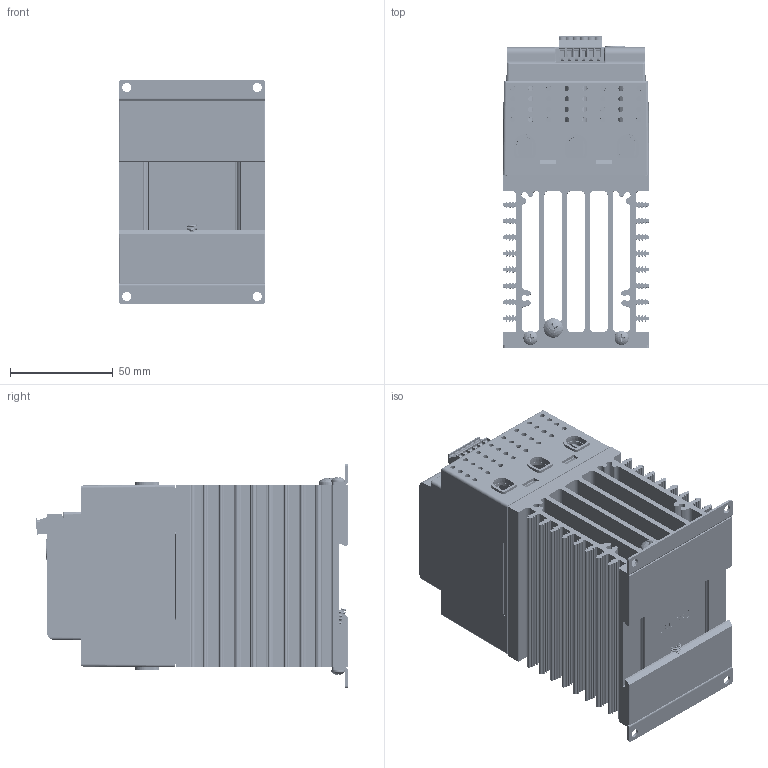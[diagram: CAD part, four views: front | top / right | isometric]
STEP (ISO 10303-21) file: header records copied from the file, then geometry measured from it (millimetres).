
FILE_DESCRIPTION(/* description */ (''),/* implementation_level */ '2;1');
FILE_NAME(/* name */ '3-phase Analog 32A w-tabs.stp',/* time_stamp */ '2024-11-15T09:08:56-06:00',/* author */ ('ErikG'),/* organization */ (''),/* preprocessor_version */ 'ST-DEVELOPER v20',/* originating_system */ 'Autodesk Inventor 2025',/* authorisation */ '');
FILE_SCHEMA (('AUTOMOTIVE_DESIGN { 1 0 10303 214 3 1 1 }'));
Products named in the file (24): 3001632e; 1001590e; P3; TC0203620000G; P2; usb-c31-s-vt-cs4-bk-pp-t-r-model ADAMTECH; P1; fci 6 pin header OQ06120000J0G; fci 6 pin headerOQ06120000J0G half 1; fci 5 pin header OQ05120000J0G half 2; fci 6 pin connector TS06110B00J0G; fci 5 pin connector TS05110B00J0G LEFT HALF; fci 5 pin connector TS05110B00J0G RIGHT HALF; 3001767; 3001760; 3001759; 3001766; 3001765b; 3001746; spring; 0060783-0610-010.ipt; 0060702-1032-0375; 3001753; 0060002-0632-0375
Assembly tree (28 placements, depth 6):
  3001632e
    1001590e
      P3
        TC0203620000G
      P2
        usb-c31-s-vt-cs4-bk-pp-t-r-model ADAMTECH
      P1
        fci 6 pin header OQ06120000J0G
          fci 6 pin headerOQ06120000J0G half 1
          fci 5 pin header OQ05120000J0G half 2
          fci 6 pin connector TS06110B00J0G
            fci 5 pin connector TS05110B00J0G LEFT HALF
            fci 5 pin connector TS05110B00J0G RIGHT HALF
    3001767
    3001760  x2
    3001759
    3001766
    3001765b
    3001746
    spring
    0060783-0610-010.ipt
    0060702-1032-0375
    3001753  x2
    0060002-0632-0375  x4
Bounding box: 71.12 x 151.53 x 109.22 mm (x, y, z)
Volume: 298766.6 mm3; surface area: 269895.1 mm2
Topology: 23 solids, 113 shells, 6255 faces, 17324 edges, 11410 vertices
Faces by surface type: plane 4352, cylinder 1310, cone 361, bspline 138, torus 87, sphere 7
Full cylindrical faces by diameter (mm): 0.254 x1, 0.45 x2, 0.55 x2, 0.65 x2, 1 x6, 1.75 x2, 2.15 x12, 2.3 x12, 2.54 x2, 2.642 x6, 2.7 x2, 2.8 x4, 2.95 x6, 3.277 x4, 3.505 x4, 3.6 x2, 4.318 x8, 4.826 x1, 4.917 x1, 6 x1, 6.172 x1, 6.858 x4, 7.976 x1, 9.474 x1
Entity records: 219938 total; most frequent: CARTESIAN_POINT 61563, ORIENTED_EDGE 33810, DIRECTION 31496, EDGE_CURVE 16905, LINE 12288, VECTOR 12288, VERTEX_POINT 11142, AXIS2_PLACEMENT_3D 9604
